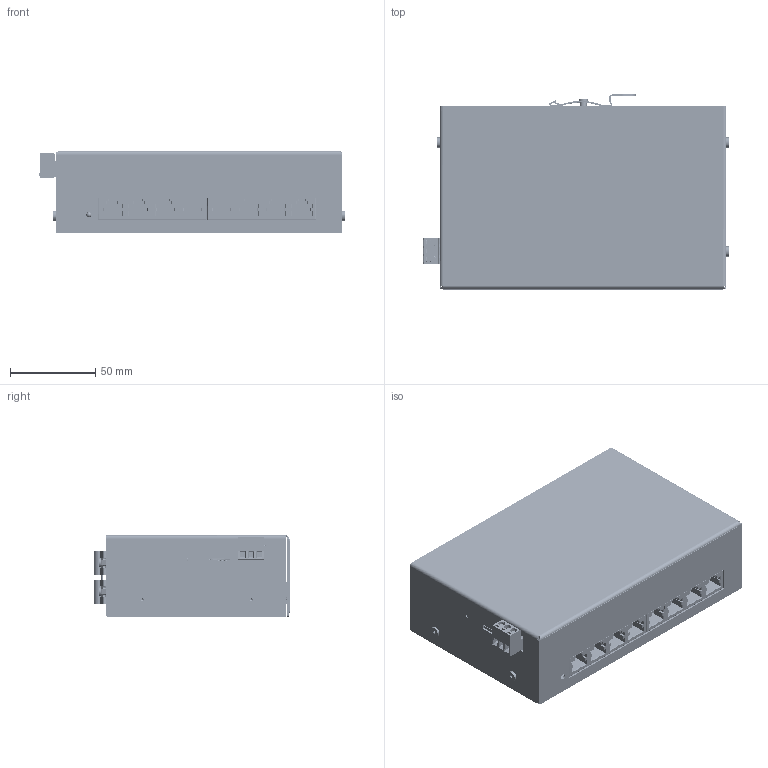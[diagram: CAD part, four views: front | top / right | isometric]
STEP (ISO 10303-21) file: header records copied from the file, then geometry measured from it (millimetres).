
FILE_DESCRIPTION(/* description */ (''),/* implementation_level */ '2;1');
FILE_NAME(/* name */ 'PPH600-60A_20260706.stp',/* time_stamp */ '2026-07-06T14:44:44+02:00',/* author */ ('ut3'),/* organization */ (''),/* preprocessor_version */ 'ST-DEVELOPER v20.1',/* originating_system */ 'Autodesk Inventor 2026',/* authorisation */ '');
FILE_SCHEMA (('AUTOMOTIVE_DESIGN { 1 0 10303 214 3 1 1 }'));
Products named in the file (333): PPH_8_V3; GS1200-8V3; PCB_8; 1X4¿Õ¿ÚÏµÁÐ´ø
µÆÎÞµ¯LPJE401BGNL; Led singolo; 694106301002 (rev1); 1300.20.615_V3; 1300.20.615_V3_1; DC16_1030_M3; 1300.20.616_V3; 1300.20.616_V3_1; DC06_1030_M3; 0; 0_1; 0_2; 0_3; 0_4; 0_5; 0_6; 0_7; 0_8; 0_9; KR-5R5V104_224_334_474-R; 0200.20.064-3F-90°; 0200.20.064-3F_90°; Reoforo_corto_90°; ASSEMBLY; Body; FilletPin1; FilletPin2; RCLAMP0524PATCT; SOD523 Asm; SOD523 LF; SOD523 compound; RCAB-10; 0_10; 0_11; 0_12; 0_13; 0_14 ...
Assembly tree (663 placements, depth 5):
  PPH_8_V3
    GS1200-8V3
      PCB_8
      1X4¿Õ¿ÚÏµÁÐ´ø
µÆÎÞµ¯LPJE401BGNL  x2
      Led singolo
      694106301002 (rev1)
    1300.20.615_V3
      1300.20.615_V3_1
      DC16_1030_M3  x4
    1300.20.616_V3
      1300.20.616_V3_1
      DC06_1030_M3  x3
    0
      0_1
        0_2
      0_3
      0_4
      0_5
      0_6
      0_7
      0_8
      0_9
      KR-5R5V104_224_334_474-R
      0200.20.064-3F-90°
        0200.20.064-3F_90°
        Reoforo_corto_90°  x2
      GRM31A5C2J101FW01D  x5
        GCM31A5C2J820JX01J_3
        GCM31A5C2J820JX01J_2
        GCM31A5C2J820JX01J
      ASSEMBLY_7  x2
        Fillet1
        Fillet2
        body2
      ASSEMBLY_8  x5
        Fillet1_1
        Fillet2_1
        body2_1
      ASSEMBLY_10  x7
        Fillet1_3
        Fillet2_3
        body2_3
      ASSEMBLY  x2
        Body
        FilletPin1
        FilletPin2
      SOD523 Asm  x2
        SOD523 LF
        SOD523 compound
      RCLAMP0524PATCT  x2
      RCAB-10  x3
      0_10
      0_11
      0_12
      0_13
      0_14
      C-1-1393225-7
      0600.00.073_ind-4x4x3  x2
      ASSEMBLY_1
        term1
Bounding box: 179.38 x 114.58 x 48 mm (x, y, z)
Volume: 122098.7 mm3; surface area: 330512.8 mm2
Topology: 1555 solids, 24215 shells, 47466 faces, 167423 edges, 144448 vertices
Faces by surface type: cylinder 26012, plane 19333, sphere 1506, bspline 301, cone 221, torus 93
Full cylindrical faces by diameter (mm): 0.15 x2, 0.156 x1, 0.4 x4, 0.45 x64, 0.5 x2, 0.585 x2, 0.6 x6, 0.625 x2, 0.64 x4, 0.7 x2, 0.8 x1, 1.016 x4, 1.5 x4, 1.6 x3, 1.8 x2, 2 x7, 2.3 x1, 2.459 x4, 2.5 x10, 3 x5, 3.2 x2, 3.3 x1, 3.4 x4, 3.6 x1, 3.621 x2, 3.7 x3, 3.85 x3, 4 x2, 4.05 x6, 4.2 x5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
Entity records: 1577519 total; most frequent: CARTESIAN_POINT 353205, DIRECTION 264933, ORIENTED_EDGE 162968, EDGE_CURVE 135307, VERTEX_POINT 125591, AXIS2_PLACEMENT_3D 95755, LINE 73423, VECTOR 73423
